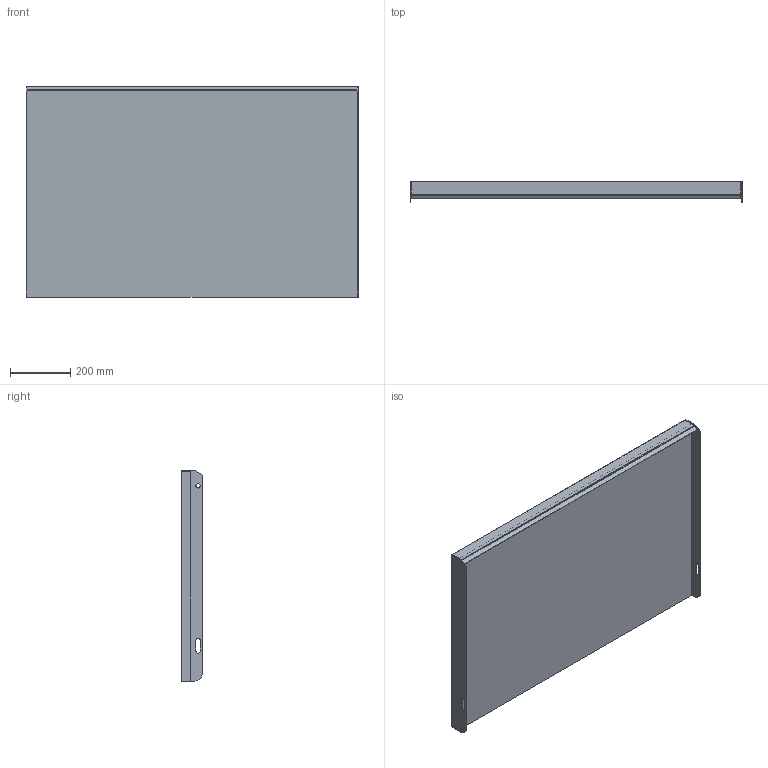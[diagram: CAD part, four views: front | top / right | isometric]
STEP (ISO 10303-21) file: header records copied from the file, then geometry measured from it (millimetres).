
FILE_DESCRIPTION (( 'STEP AP203' ), '1' );
FILE_NAME ('148811071, Plan TH6, 1100x700, vfz.STEP', '2020-10-21T13:14:20', ( '' ), ( '' ), 'SwSTEP 2.0', 'SolidWorks 2019', '' );
FILE_SCHEMA (( 'CONFIG_CONTROL_DESIGN' ));
Length unit declared in the file: millimetre
Products named in the file (4): SW0000041752; SW0000041792; SW0000041386; 148811071, Plan TH6, 1100x700, vfz
Assembly tree (4 placements, depth 2):
  148811071, Plan TH6, 1100x700, vfz
    SW0000041792
    SW0000041386  x2
    SW0000041752
Bounding box: 1100 x 70 x 697 mm (x, y, z)
Volume: 23259611.9 mm3; surface area: 1964514.5 mm2
Topology: 4 solids, 4 shells, 59 faces, 142 edges, 92 vertices
Faces by surface type: plane 45, cylinder 14
Entity records: 1693 total; most frequent: DIRECTION 221, CARTESIAN_POINT 220, ORIENTED_EDGE 206, EDGE_CURVE 103, VECTOR 87, LINE 87, AXIS2_PLACEMENT_3D 67, VERTEX_POINT 66
